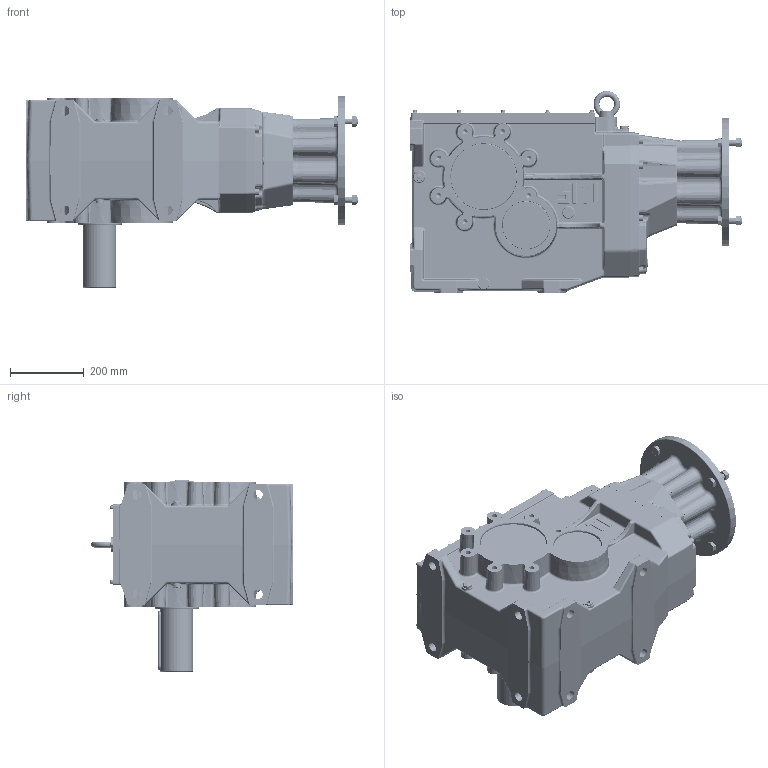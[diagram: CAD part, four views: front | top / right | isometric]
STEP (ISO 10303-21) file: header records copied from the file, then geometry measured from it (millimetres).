
FILE_DESCRIPTION((''),'2;1');
FILE_NAME('O:\Figurini\Figurini BH\3D\160\MBHGC 160 MS-A GR 180 B5.stp','2013-05-21T09:08:04',('d.iannaccio'),(''),'Autodesk Inventor 2012','Autodesk Inventor 2012','');
FILE_SCHEMA(('AUTOMOTIVE_DESIGN { 1 0 10303 214 1 1 1 1 }'));
Length unit declared in the file: millimetre
Products named in the file (1): MBHGC_160 MS-A GR 180 B5
Bounding box: 901 x 547.98 x 519.33 mm (x, y, z)
Volume: 29093699.4 mm3; surface area: 3764940.7 mm2
Topology: 67 solids, 69 shells, 4434 faces, 10587 edges, 6275 vertices
Faces by surface type: cylinder 1253, plane 1191, bspline 818, cone 545, torus 520, sphere 107
Full cylindrical faces by diameter (mm): 1.5 x1, 3.15 x2, 3.5 x2, 4.917 x12, 6 x24, 6.4 x12, 6.647 x1, 7 x12, 8 x1, 10 x12, 10.106 x16, 11 x2, 12 x30, 12.5 x14, 13 x16, 13.835 x14, 14.95 x8, 16 x8, 17.25 x2, 17.294 x3, 18 x16, 18.5 x4, 20 x2, 20.5 x16, 21 x2, 22 x1, 22.49 x4, 24 x1, 25 x1, 25.08 x1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
Entity records: 163656 total; most frequent: CARTESIAN_POINT 64516, DIRECTION 19482, ORIENTED_EDGE 19160, EDGE_CURVE 9580, AXIS2_PLACEMENT_3D 8255, VERTEX_POINT 6011, EDGE_LOOP 5305, STYLED_ITEM 4500
